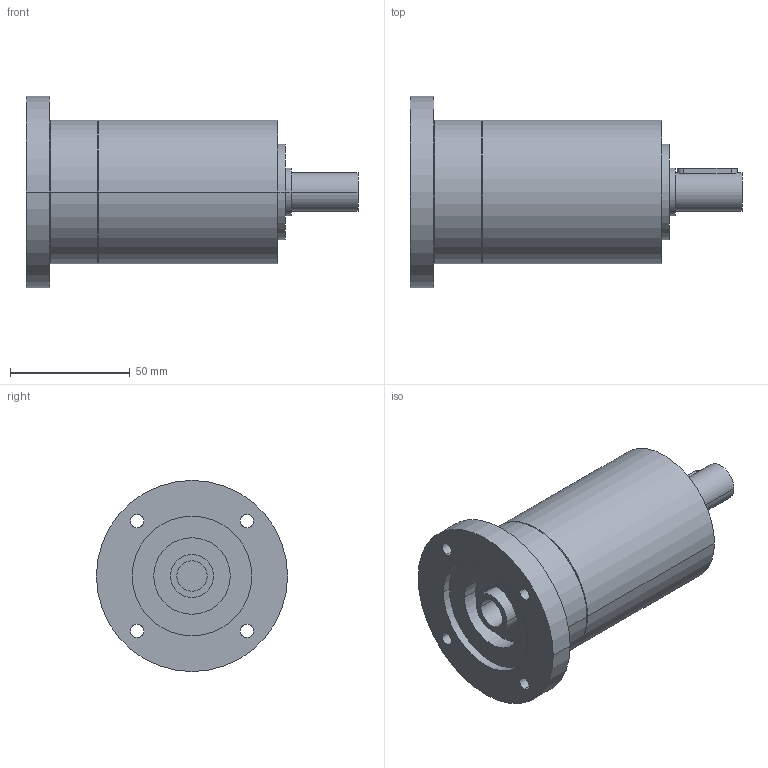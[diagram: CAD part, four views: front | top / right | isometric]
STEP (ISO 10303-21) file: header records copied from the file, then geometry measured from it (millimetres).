
FILE_DESCRIPTION(('CoCreate Modeling STEP Export'),'2;1');
FILE_NAME('GPR75_ig-9-12-16-20-24-30-36_16_B14_12.7_P13.stp','2014-08-25T16:02:22',(''),(''),'CoCreate Modeling STEP processor for AP214 (Solid Model)','CoCreate Modeling 16.00C 25-Feb-2009 (C) Parametric Technology GmbH','');
FILE_SCHEMA(('AUTOMOTIVE_DESIGN { 1 0 10303 214 1 1 1 1 }'));
Length unit declared in the file: millimetre
Products named in the file (2): GPR75_ig-9-12-16-20-24-30-36_16_B14_12.7_P13
Assembly tree (1 placements, depth 2):
  GPR75_ig-9-12-16-20-24-30-36_16_B14_12.7_P13
    GPR75_ig-9-12-16-20-24-30-36_16_B14_12.7_P13
Bounding box: 138.9 x 80 x 80 mm (x, y, z)
Volume: 313570.6 mm3; surface area: 37093.4 mm2
Topology: 1 solids, 1 shells, 80 faces, 213 edges, 147 vertices
Faces by surface type: cylinder 48, plane 26, cone 6
Entity records: 2095 total; most frequent: ORIENTED_EDGE 422, CARTESIAN_POINT 378, DIRECTION 274, EDGE_CURVE 211, VERTEX_POINT 147, AXIS2_PLACEMENT_3D 107, EDGE_LOOP 102, FACE_OUTER_BOUND 80
